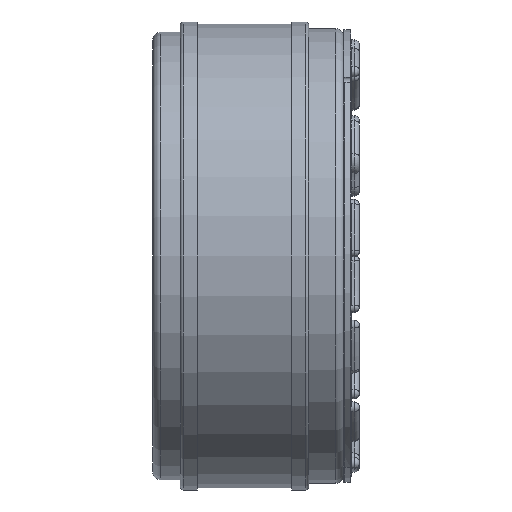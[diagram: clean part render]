
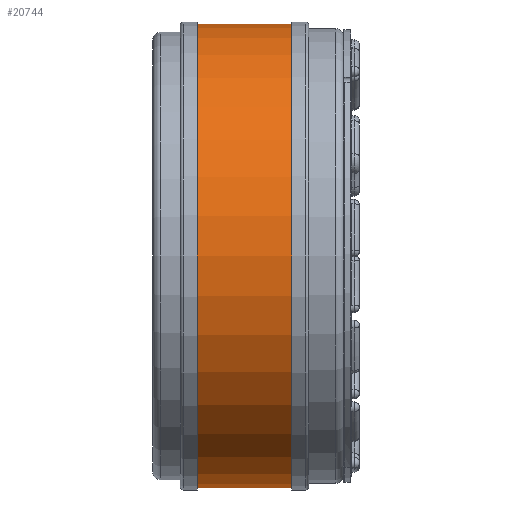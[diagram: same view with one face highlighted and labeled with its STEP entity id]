
A CAD part, front view. The second image highlights one B-rep face of the part: STEP entity #20744.
In plain terms, the highlighted cylindrical face has radius 34.2 mm (diameter 68.4 mm), a partial arc.
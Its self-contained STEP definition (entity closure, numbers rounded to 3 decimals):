
#31 = VECTOR ( 'NONE', #38007, 1000. ) ;
#1174 = LINE ( 'NONE', #13396, #31 ) ;
#2618 = VERTEX_POINT ( 'NONE', #35919 ) ;
#2884 = AXIS2_PLACEMENT_3D ( 'NONE', #18602, #22152, #18439 ) ;
#3319 = CARTESIAN_POINT ( 'NONE',  ( 20.5, 0., 0. ) ) ;
#5715 = VECTOR ( 'NONE', #9905, 1000. ) ;
#5964 = EDGE_CURVE ( 'NONE', #26604, #45509, #1174, .T. ) ;
#6856 = DIRECTION ( 'NONE',  ( 0., 0., 1. ) ) ;
#6958 = ORIENTED_EDGE ( 'NONE', *, *, #5964, .F. ) ;
#9905 = DIRECTION ( 'NONE',  ( -1., 0., 0. ) ) ;
#11946 = ORIENTED_EDGE ( 'NONE', *, *, #20432, .T. ) ;
#13037 = CIRCLE ( 'NONE', #44267, 34.2 ) ;
#13396 = CARTESIAN_POINT ( 'NONE',  ( 0., 0., -34.2 ) ) ;
#14707 = CIRCLE ( 'NONE', #38084, 34.2 ) ;
#16238 = EDGE_LOOP ( 'NONE', ( #6958, #20843, #11946, #25699 ) ) ;
#18439 = DIRECTION ( 'NONE',  ( 0., 0., 1. ) ) ;
#18442 = CARTESIAN_POINT ( 'NONE',  ( 6.6, 0., 0. ) ) ;
#18602 = CARTESIAN_POINT ( 'NONE',  ( 0., 0., 0. ) ) ;
#20432 = EDGE_CURVE ( 'NONE', #34274, #2618, #24377, .T. ) ;
#20694 = CARTESIAN_POINT ( 'NONE',  ( 20.5, 0., 34.2 ) ) ;
#20744 = ADVANCED_FACE ( 'NONE', ( #22106 ), #21001, .T. ) ;
#20843 = ORIENTED_EDGE ( 'NONE', *, *, #42149, .T. ) ;
#21001 = CYLINDRICAL_SURFACE ( 'NONE', #2884, 34.2 ) ;
#22004 = DIRECTION ( 'NONE',  ( 0., 0., 1. ) ) ;
#22106 = FACE_OUTER_BOUND ( 'NONE', #16238, .T. ) ;
#22152 = DIRECTION ( 'NONE',  ( -1., 0., 0. ) ) ;
#23885 = CARTESIAN_POINT ( 'NONE',  ( 0., 0., 34.2 ) ) ;
#24377 = LINE ( 'NONE', #23885, #5715 ) ;
#25699 = ORIENTED_EDGE ( 'NONE', *, *, #42403, .F. ) ;
#25782 = CARTESIAN_POINT ( 'NONE',  ( 6.6, 0., -34.2 ) ) ;
#26604 = VERTEX_POINT ( 'NONE', #36670 ) ;
#27875 = DIRECTION ( 'NONE',  ( -1., 0., 0. ) ) ;
#34274 = VERTEX_POINT ( 'NONE', #20694 ) ;
#35919 = CARTESIAN_POINT ( 'NONE',  ( 6.6, 0., 34.2 ) ) ;
#36670 = CARTESIAN_POINT ( 'NONE',  ( 20.5, 0., -34.2 ) ) ;
#38007 = DIRECTION ( 'NONE',  ( -1., 0., 0. ) ) ;
#38084 = AXIS2_PLACEMENT_3D ( 'NONE', #3319, #27875, #6856 ) ;
#42149 = EDGE_CURVE ( 'NONE', #26604, #34274, #14707, .T. ) ;
#42403 = EDGE_CURVE ( 'NONE', #45509, #2618, #13037, .T. ) ;
#43080 = DIRECTION ( 'NONE',  ( -1., 0., 0. ) ) ;
#44267 = AXIS2_PLACEMENT_3D ( 'NONE', #18442, #43080, #22004 ) ;
#45509 = VERTEX_POINT ( 'NONE', #25782 ) ;
